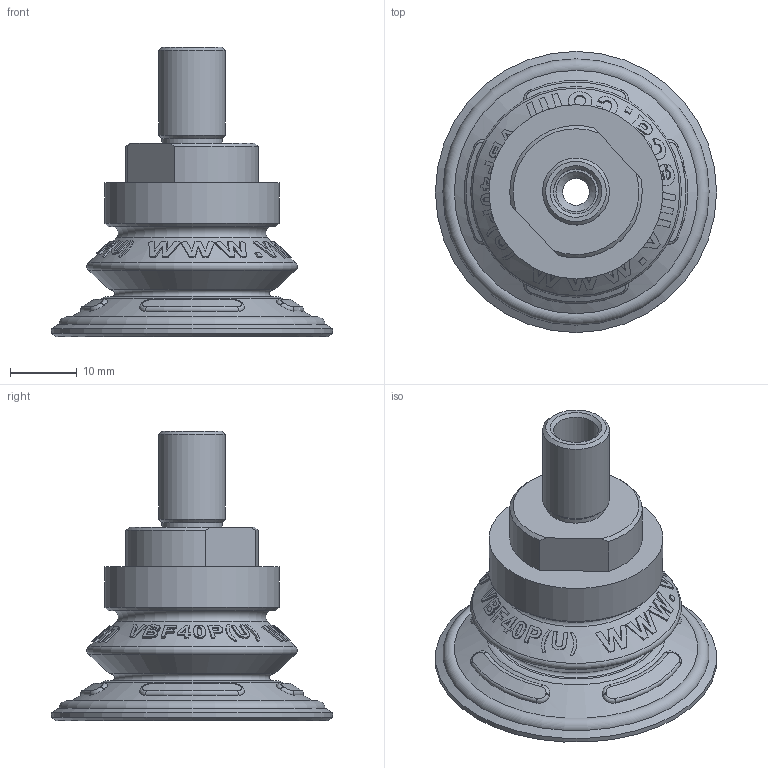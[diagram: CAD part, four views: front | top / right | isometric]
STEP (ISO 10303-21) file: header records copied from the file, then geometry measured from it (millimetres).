
FILE_DESCRIPTION( ( 'Unknown' ), '1' );
FILE_NAME( 'C:/Documents and Settings/茄惫春概平/My Documents/诀公/3d/VBF40/VBF40 PU M10M.stp', 'Unknown', ( 'Unknown' ), ( 'Unknown' ), 'PSStep 10.0', 'Unknown', ' ' );
FILE_SCHEMA( ( 'automotive_design' ) );
Length unit declared in the file: millimetre
Products named in the file (1): VBF40
Bounding box: 42 x 42 x 43.26 mm (x, y, z)
Volume: 10827.9 mm3; surface area: 8536 mm2
Topology: 1 solids, 2 shells, 458 faces, 1179 edges, 766 vertices
Faces by surface type: bspline 180, plane 150, cylinder 60, cone 50, torus 18
Full cylindrical faces by diameter (mm): 4 x1, 6 x1, 6.7 x1, 8.982 x1, 10 x1, 13.5 x1, 15.5 x1, 16.1 x1, 26 x1, 42 x1
Entity records: 26938 total; most frequent: CARTESIAN_POINT 13657, ORIENTED_EDGE 2266, DIRECTION 1424, EDGE_CURVE 1133, VERTEX_POINT 759, EDGE_LOOP 542, AXIS2_PLACEMENT_3D 520, B_SPLINE_CURVE_WITH_KNOTS 508
